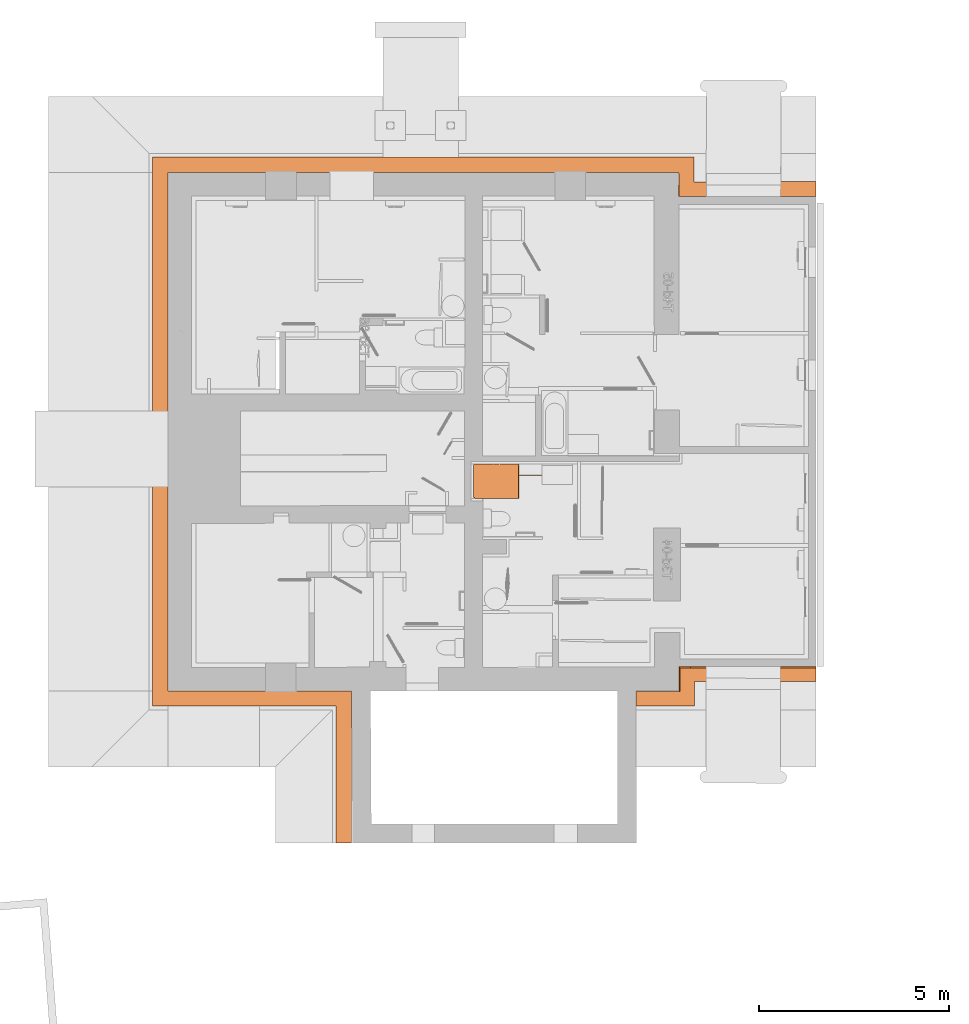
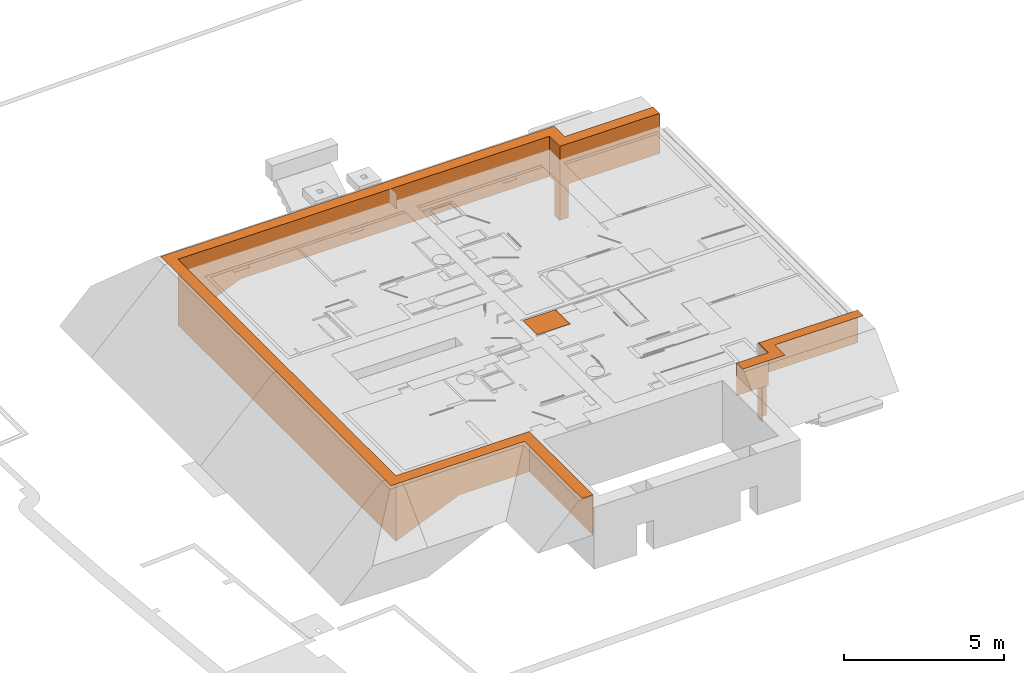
# Not in any storey, part 10 of 22: 2 proxies.
"""IFC4 model written with IfcOpenShell, lengths in metres."""

from ifc_helpers import new_model, si_unit, direction, origin_with_axes, place, context, subcontext, project, faceted_brep, element, save


model = new_model("IFC4")

# Units and contexts
model_context = context("Model", 3, precision=1e-05, world=origin_with_axes(), true_north=direction((1.0, 0.0)))
body_context = subcontext(model_context, "Body", "Model", "MODEL_VIEW")
ifc_project = project(units=[si_unit("LENGTHUNIT", "METRE"), si_unit("AREAUNIT", "SQUARE_METRE"), si_unit("VOLUMEUNIT", "CUBIC_METRE"), si_unit("MASSUNIT", "GRAM", prefix="KILO"), si_unit("TIMEUNIT", "SECOND"), si_unit("PLANEANGLEUNIT", "RADIAN"), si_unit("SOLIDANGLEUNIT", "STERADIAN")], contexts=[model_context])

# Proxies
placement = place(None, origin_with_axes())
element("IfcBuildingElementProxy", 1, at=placement, Name="Undefined", PredefinedType="NOTDEFINED", context=body_context, shape_type="Brep", body=[
    faceted_brep([(149.461937, 21.568141, 2.28), (148.564542, 21.568141, 2.28), (148.564542, 21.585072, 2.28), (149.512733, 21.585072, 2.28), (149.512785, 21.585072, 2.28), (149.529666, 21.585072, 2.28), (149.529666, 21.568141, 2.28), (149.512785, 21.568141, 2.28), (149.529685, 22.406274, 2.28), (149.529666, 22.186159, 2.28), (149.512785, 22.186159, 2.28), (149.512785, 22.450863, 2.28), (149.515596, 22.447441, 2.28), (149.518179, 22.443844, 2.28), (149.520522, 22.440087, 2.28), (149.522615, 22.436185, 2.28), (149.524451, 22.432155, 2.28), (149.52602, 22.428015, 2.28), (149.527317, 22.423781, 2.28), (149.528335, 22.419471, 2.28), (149.529071, 22.415105, 2.28), (149.529522, 22.4107, 2.28), (149.529666, 22.406792, 2.28), (149.529666, 22.169225, 2.28), (149.529666, 21.635868, 2.28), (150.127513, 22.169225, 2.28), (150.130752, 22.186159, 2.28), (150.130752, 22.169225, 2.28), (150.128131, 22.169225, 2.28), (150.128131, 22.185904, 2.28), (150.127513, 22.169225, 2.31), (149.529666, 22.169225, 2.31), (149.529666, 22.186159, 2.31), (150.130752, 22.186159, 2.31), (150.130752, 22.169225, 2.31), (150.128131, 22.169225, 2.31), (150.128131, 22.185904, 2.31)], [[[0, 1, 2, 3, 4, 5, 6, 7]], [[8, 9, 10, 11, 12, 13, 14, 15, 16, 17, 18, 19, 20, 21, 22]], [[4, 10, 9, 23, 24, 5]], [[25, 23, 9, 26, 27, 28, 29]], [[30, 31, 23, 25]], [[32, 33, 26, 9]], [[33, 34, 27, 26]], [[34, 35, 28, 27]], [[35, 36, 29, 28]], [[36, 30, 25, 29]]]),
    faceted_brep([(148.869318, 22.474002, 2.31), (148.860853, 22.474021, 2.31), (148.860853, 22.482467, 2.31), (148.869318, 22.482467, 2.31), (148.869318, 22.45707, 2.31), (148.860853, 22.45707, 2.31), (149.01324, 22.474002, 2.31), (149.004774, 22.474021, 2.31), (149.004774, 22.482467, 2.31), (149.021706, 22.482467, 2.31), (149.021706, 22.474021, 2.31), (149.021706, 22.45707, 2.31), (149.004774, 22.45707, 2.31), (149.021706, 22.45707, 2.28), (149.021706, 22.474021, 2.28), (149.461937, 22.474021, 2.28), (149.466363, 22.473858, 2.28), (149.470768, 22.473407, 2.28), (149.475134, 22.472671, 2.28), (149.479444, 22.471653, 2.28), (149.483678, 22.470356, 2.28), (149.487818, 22.468787, 2.28), (149.491848, 22.466952, 2.28), (149.49575, 22.464858, 2.28), (149.499507, 22.462515, 2.28), (149.503105, 22.459933, 2.28), (149.506526, 22.457122, 2.28), (149.509757, 22.454094, 2.28), (149.512733, 22.450918, 2.28), (149.512785, 22.450863, 2.28), (149.512785, 22.186159, 2.28), (149.461937, 22.186159, 2.28), (149.461937, 22.347013, 2.28), (149.461774, 22.351438, 2.28), (149.461324, 22.355843, 2.28), (149.460588, 22.360209, 2.28), (149.459569, 22.364519, 2.28), (149.458272, 22.368752, 2.28), (149.456703, 22.372893, 2.28), (149.454868, 22.376923, 2.28), (149.452774, 22.380825, 2.28), (149.450431, 22.384582, 2.28), (149.447849, 22.388179, 2.28), (149.445038, 22.3916, 2.28), (149.44201, 22.394832, 2.28), (149.438779, 22.397859, 2.28), (149.435357, 22.40067, 2.28), (149.43176, 22.403253, 2.28), (149.428003, 22.405596, 2.28), (149.424101, 22.407689, 2.28), (149.420071, 22.409525, 2.28), (149.415931, 22.411094, 2.28), (149.411697, 22.412391, 2.28), (149.407388, 22.413409, 2.28), (149.403021, 22.414145, 2.28), (149.398616, 22.414596, 2.28), (149.39421, 22.41474, 2.28), (148.462951, 22.414759, 2.28), (148.458526, 22.414596, 2.28), (148.454121, 22.414146, 2.28), (148.449754, 22.41341, 2.28), (148.445445, 22.412391, 2.28), (148.441211, 22.411094, 2.28), (148.43707, 22.409525, 2.28), (148.43304, 22.40769, 2.28), (148.429138, 22.405596, 2.28), (148.425381, 22.403253, 2.28), (148.421784, 22.400671, 2.28), (148.418362, 22.39786, 2.28), (148.415131, 22.394832, 2.28), (148.412104, 22.391601, 2.28), (148.409292, 22.388179, 2.28), (148.40671, 22.384582, 2.28), (148.404367, 22.380825, 2.28), (148.402273, 22.376923, 2.28), (148.400438, 22.372893, 2.28), (148.398868, 22.368753, 2.28), (148.397572, 22.364519, 2.28), (148.396553, 22.360209, 2.28), (148.395817, 22.355843, 2.28), (148.395366, 22.351438, 2.28), (148.395222, 22.347013, 2.28), (148.395203, 21.686664, 2.28), (148.395366, 21.682239, 2.28), (148.395817, 21.677834, 2.28), (148.396553, 21.673467, 2.28), (148.397572, 21.669158, 2.28), (148.398869, 21.664924, 2.28), (148.400438, 21.660784, 2.28), (148.402274, 21.656754, 2.28), (148.404367, 21.652852, 2.28), (148.40671, 21.649095, 2.28), (148.409293, 21.645498, 2.28), (148.412104, 21.642076, 2.28), (148.415131, 21.638845, 2.28), (148.418363, 21.635817, 2.28), (148.421784, 21.633006, 2.28), (148.425381, 21.630424, 2.28), (148.429139, 21.628081, 2.28), (148.433041, 21.625987, 2.28), (148.43707, 21.624152, 2.28), (148.441211, 21.622583, 2.28), (148.445445, 21.621286, 2.28), (148.449754, 21.620267, 2.28), (148.454121, 21.619531, 2.28), (148.458526, 21.619081, 2.28), (148.462951, 21.618937, 2.28), (148.564542, 21.618937, 2.28), (148.564542, 21.585072, 2.28), (148.564542, 21.568141, 2.28), (148.395222, 21.568141, 2.28), (148.390797, 21.568285, 2.28), (148.386392, 21.568735, 2.28), (148.382026, 21.569471, 2.28), (148.377716, 21.57049, 2.28), (148.373483, 21.571787, 2.28), (148.369342, 21.573356, 2.28), (148.365312, 21.575191, 2.28), (148.36141, 21.577285, 2.28), (148.357653, 21.579628, 2.28), (148.354056, 21.58221, 2.28), (148.350634, 21.585021, 2.28), (148.347403, 21.588049, 2.28), (148.344375, 21.59128, 2.28), (148.341564, 21.594702, 2.28), (148.338982, 21.598299, 2.28), (148.336639, 21.602056, 2.28), (148.334545, 21.605958, 2.28), (148.33271, 21.609988, 2.28), (148.33114, 21.614128, 2.28), (148.329843, 21.618362, 2.28), (148.328825, 21.622671, 2.28), (148.328089, 21.627038, 2.28), (148.327638, 21.631443, 2.28), (148.327475, 21.635868, 2.28), (148.327476, 21.686664, 2.28), (148.327494, 22.406274, 2.28), (148.327638, 22.4107, 2.28), (148.328088, 22.415105, 2.28), (148.328824, 22.419471, 2.28), (148.329843, 22.423781, 2.28), (148.33114, 22.428015, 2.28), (148.332709, 22.432155, 2.28), (148.334545, 22.436185, 2.28), (148.336638, 22.440087, 2.28), (148.338981, 22.443844, 2.28), (148.341564, 22.447441, 2.28), (148.344375, 22.450863, 2.28), (148.347402, 22.454094, 2.28), (148.350634, 22.457122, 2.28), (148.354055, 22.459933, 2.28), (148.357652, 22.462515, 2.28), (148.36141, 22.464858, 2.28), (148.365312, 22.466952, 2.28), (148.369342, 22.468787, 2.28), (148.373482, 22.470356, 2.28), (148.377716, 22.471653, 2.28), (148.382026, 22.472671, 2.28), (148.386392, 22.473407, 2.28), (148.390797, 22.473858, 2.28), (148.395222, 22.474021, 2.28), (148.860853, 22.474021, 2.28), (148.860853, 22.45707, 2.28), (148.869318, 22.45707, 2.28), (148.869318, 22.474002, 2.28), (149.004774, 22.474021, 2.28), (149.004774, 22.45707, 2.28), (149.461937, 22.474021, 2.31), (149.466363, 22.473858, 2.31), (149.470768, 22.473407, 2.31), (149.475134, 22.472671, 2.31), (149.479444, 22.471653, 2.31), (149.483678, 22.470356, 2.31), (149.487818, 22.468787, 2.31), (149.491848, 22.466952, 2.31), (149.49575, 22.464858, 2.31), (149.499507, 22.462515, 2.31), (149.503105, 22.459933, 2.31), (149.506526, 22.457122, 2.31), (149.509757, 22.454094, 2.31), (149.512733, 22.450918, 2.31), (149.512785, 22.450863, 2.31), (149.512785, 22.186159, 2.31), (149.461937, 22.186159, 2.29), (149.461937, 22.347013, 2.29), (149.461774, 22.351438, 2.29), (149.461324, 22.355843, 2.29), (149.460588, 22.360209, 2.29), (149.459569, 22.364519, 2.29), (149.458272, 22.368752, 2.29), (149.456703, 22.372893, 2.29), (149.454868, 22.376923, 2.29), (149.452774, 22.380825, 2.29), (149.450431, 22.384582, 2.29), (149.447849, 22.388179, 2.29), (149.445038, 22.3916, 2.29), (149.44201, 22.394832, 2.29), (149.438779, 22.397859, 2.29), (149.435357, 22.40067, 2.29), (149.43176, 22.403253, 2.29), (149.428003, 22.405596, 2.29), (149.424101, 22.407689, 2.29), (149.420071, 22.409525, 2.29), (149.415931, 22.411094, 2.29), (149.411697, 22.412391, 2.29), (149.407388, 22.413409, 2.29), (149.403021, 22.414145, 2.29), (149.398616, 22.414596, 2.29), (149.39421, 22.41474, 2.29), (148.462951, 22.414759, 2.29), (148.458526, 22.414596, 2.29), (148.454121, 22.414146, 2.29), (148.449754, 22.41341, 2.29), (148.445445, 22.412391, 2.29), (148.441211, 22.411094, 2.29), (148.43707, 22.409525, 2.29), (148.43304, 22.40769, 2.29), (148.429138, 22.405596, 2.29), (148.425381, 22.403253, 2.29), (148.421784, 22.400671, 2.29), (148.418362, 22.39786, 2.29), (148.415131, 22.394832, 2.29), (148.412104, 22.391601, 2.29), (148.409292, 22.388179, 2.29), (148.40671, 22.384582, 2.29), (148.404367, 22.380825, 2.29), (148.402273, 22.376923, 2.29), (148.400438, 22.372893, 2.29), (148.398868, 22.368753, 2.29), (148.397572, 22.364519, 2.29), (148.396553, 22.360209, 2.29), (148.395817, 22.355843, 2.29), (148.395366, 22.351438, 2.29), (148.395222, 22.347013, 2.29), (148.395203, 21.686664, 2.29), (148.395366, 21.682239, 2.29), (148.395817, 21.677834, 2.29), (148.396553, 21.673467, 2.29), (148.397572, 21.669158, 2.29), (148.398869, 21.664924, 2.29), (148.400438, 21.660784, 2.29), (148.402274, 21.656754, 2.29), (148.404367, 21.652852, 2.29), (148.40671, 21.649095, 2.29), (148.409293, 21.645498, 2.29), (148.412104, 21.642076, 2.29), (148.415131, 21.638845, 2.29), (148.418363, 21.635817, 2.29), (148.421784, 21.633006, 2.29), (148.425381, 21.630424, 2.29), (148.429139, 21.628081, 2.29), (148.433041, 21.625987, 2.29), (148.43707, 21.624152, 2.29), (148.441211, 21.622583, 2.29), (148.445445, 21.621286, 2.29), (148.449754, 21.620267, 2.29), (148.454121, 21.619531, 2.29), (148.458526, 21.619081, 2.29), (148.462951, 21.618937, 2.29), (148.564542, 21.618937, 2.29), (148.564542, 21.568141, 2.31), (148.395222, 21.568141, 2.31), (148.390797, 21.568285, 2.31), (148.386392, 21.568735, 2.31), (148.382026, 21.569471, 2.31), (148.377716, 21.57049, 2.31), (148.373483, 21.571787, 2.31), (148.369342, 21.573356, 2.31), (148.365312, 21.575191, 2.31), (148.36141, 21.577285, 2.31), (148.357653, 21.579628, 2.31), (148.354056, 21.58221, 2.31), (148.350634, 21.585021, 2.31), (148.347403, 21.588049, 2.31), (148.344375, 21.59128, 2.31), (148.341564, 21.594702, 2.31), (148.338982, 21.598299, 2.31), (148.336639, 21.602056, 2.31), (148.334545, 21.605958, 2.31), (148.33271, 21.609988, 2.31), (148.33114, 21.614128, 2.31), (148.329843, 21.618362, 2.31), (148.328825, 21.622671, 2.31), (148.328089, 21.627038, 2.31), (148.327638, 21.631443, 2.31), (148.327475, 21.635868, 2.31), (148.327476, 21.686664, 2.31), (148.327494, 22.406274, 2.31), (148.327638, 22.4107, 2.31), (148.328088, 22.415105, 2.31), (148.328824, 22.419471, 2.31), (148.329843, 22.423781, 2.31), (148.33114, 22.428015, 2.31), (148.332709, 22.432155, 2.31), (148.334545, 22.436185, 2.31), (148.336638, 22.440087, 2.31), (148.338981, 22.443844, 2.31), (148.341564, 22.447441, 2.31), (148.344375, 22.450863, 2.31), (148.347402, 22.454094, 2.31), (148.350634, 22.457122, 2.31), (148.354055, 22.459933, 2.31), (148.357652, 22.462515, 2.31), (148.36141, 22.464858, 2.31), (148.365312, 22.466952, 2.31), (148.369342, 22.468787, 2.31), (148.373482, 22.470356, 2.31), (148.377716, 22.471653, 2.31), (148.382026, 22.472671, 2.31), (148.386392, 22.473407, 2.31), (148.390797, 22.473858, 2.31), (148.395222, 22.474021, 2.31), (149.461937, 21.686664, 2.29), (149.461793, 21.682239, 2.29), (149.461343, 21.677834, 2.29), (149.460607, 21.673468, 2.29), (149.459588, 21.669158, 2.29), (149.458291, 21.664924, 2.29), (149.456722, 21.660784, 2.29), (149.454886, 21.656754, 2.29), (149.452793, 21.652852, 2.29), (149.45045, 21.649095, 2.29), (149.447867, 21.645498, 2.29), (149.445056, 21.642077, 2.29), (149.442029, 21.638845, 2.29), (149.438797, 21.635818, 2.29), (149.435376, 21.633007, 2.29), (149.431779, 21.630424, 2.29), (149.428022, 21.628081, 2.29), (149.42412, 21.625988, 2.29), (149.42009, 21.624152, 2.29), (149.41595, 21.622583, 2.29), (149.411716, 21.621286, 2.29), (149.407407, 21.620267, 2.29), (149.40304, 21.619531, 2.29), (149.398635, 21.619081, 2.29), (149.39421, 21.618937, 2.29), (149.461937, 21.686664, 2.28), (149.461793, 21.682239, 2.28), (149.461343, 21.677834, 2.28), (149.460607, 21.673468, 2.28), (149.459588, 21.669158, 2.28), (149.458291, 21.664924, 2.28), (149.456722, 21.660784, 2.28), (149.454886, 21.656754, 2.28), (149.452793, 21.652852, 2.28), (149.45045, 21.649095, 2.28), (149.447867, 21.645498, 2.28), (149.445056, 21.642077, 2.28), (149.442029, 21.638845, 2.28), (149.438797, 21.635818, 2.28), (149.435376, 21.633007, 2.28), (149.431779, 21.630424, 2.28), (149.428022, 21.628081, 2.28), (149.42412, 21.625988, 2.28), (149.42009, 21.624152, 2.28), (149.41595, 21.622583, 2.28), (149.411716, 21.621286, 2.28), (149.407407, 21.620267, 2.28), (149.40304, 21.619531, 2.28), (149.398635, 21.619081, 2.28), (149.39421, 21.618937, 2.28), (149.512733, 21.58512, 2.28), (149.512733, 21.585072, 2.31), (149.461937, 21.568141, 2.31), (149.461937, 21.568141, 2.28), (149.529666, 21.585072, 2.31), (149.529666, 21.585072, 2.28), (149.529666, 21.568141, 2.31), (149.529666, 21.568141, 2.28), (149.512785, 21.568141, 2.31), (149.512785, 21.568141, 2.28), (149.512733, 22.474002, 2.31), (149.515596, 22.447441, 2.31), (149.518179, 22.443844, 2.31), (149.520522, 22.440087, 2.31), (149.522615, 22.436185, 2.31), (149.524451, 22.432155, 2.31), (149.52602, 22.428015, 2.31), (149.527317, 22.423781, 2.31), (149.528335, 22.419471, 2.31), (149.529071, 22.415105, 2.31), (149.529522, 22.4107, 2.31), (149.529666, 22.406792, 2.31), (149.529666, 22.474002, 2.31), (149.512733, 22.474002, 2.28), (149.529666, 22.474002, 2.28), (149.529666, 22.406792, 2.28), (149.529522, 22.4107, 2.28), (149.529071, 22.415105, 2.28), (149.528335, 22.419471, 2.28), (149.527317, 22.423781, 2.28), (149.52602, 22.428015, 2.28), (149.524451, 22.432155, 2.28), (149.522615, 22.436185, 2.28), (149.520522, 22.440087, 2.28), (149.518179, 22.443844, 2.28), (149.515596, 22.447441, 2.28), (149.529685, 22.406274, 2.31), (149.529666, 22.186159, 2.31), (149.529666, 22.186159, 2.28), (149.529685, 22.406274, 2.28), (149.529666, 22.169225, 2.31), (149.529666, 21.635868, 2.31), (149.529666, 21.635868, 2.28), (149.529666, 22.169225, 2.28), (150.128131, 22.169225, 2.31), (150.127513, 22.169225, 2.31), (150.128131, 22.185904, 2.31)], [[[0, 1, 2, 3]], [[1, 0, 4, 5]], [[6, 7, 8, 9, 10]], [[7, 6, 10, 11, 12]], [[13, 14, 15, 16, 17, 18, 19, 20, 21, 22, 23, 24, 25, 26, 27, 28, 29, 30, 31, 32, 33, 34, 35, 36, 37, 38, 39, 40, 41, 42, 43, 44, 45, 46, 47, 48, 49, 50, 51, 52, 53, 54, 55, 56, 57, 58, 59, 60, 61, 62, 63, 64, 65, 66, 67, 68, 69, 70, 71, 72, 73, 74, 75, 76, 77, 78, 79, 80, 81, 82, 83, 84, 85, 86, 87, 88, 89, 90, 91, 92, 93, 94, 95, 96, 97, 98, 99, 100, 101, 102, 103, 104, 105, 106, 107, 108, 109, 110, 111, 112, 113, 114, 115, 116, 117, 118, 119, 120, 121, 122, 123, 124, 125, 126, 127, 128, 129, 130, 131, 132, 133, 134, 135, 136, 137, 138, 139, 140, 141, 142, 143, 144, 145, 146, 147, 148, 149, 150, 151, 152, 153, 154, 155, 156, 157, 158, 159, 160, 161, 162, 163, 164, 165, 166]], [[11, 10, 14, 13]], [[10, 167, 15, 14]], [[167, 168, 16, 15]], [[168, 169, 17, 16]], [[169, 170, 18, 17]], [[170, 171, 19, 18]], [[171, 172, 20, 19]], [[172, 173, 21, 20]], [[173, 174, 22, 21]], [[174, 175, 23, 22]], [[175, 176, 24, 23]], [[176, 177, 25, 24]], [[177, 178, 26, 25]], [[178, 179, 27, 26]], [[179, 180, 28, 27]], [[181, 182, 30, 29]], [[31, 183, 184, 32]], [[32, 184, 185, 33]], [[33, 185, 186, 34]], [[34, 186, 187, 35]], [[35, 187, 188, 36]], [[36, 188, 189, 37]], [[37, 189, 190, 38]], [[38, 190, 191, 39]], [[39, 191, 192, 40]], [[40, 192, 193, 41]], [[41, 193, 194, 42]], [[42, 194, 195, 43]], [[43, 195, 196, 44]], [[44, 196, 197, 45]], [[45, 197, 198, 46]], [[46, 198, 199, 47]], [[47, 199, 200, 48]], [[48, 200, 201, 49]], [[49, 201, 202, 50]], [[50, 202, 203, 51]], [[51, 203, 204, 52]], [[52, 204, 205, 53]], [[53, 205, 206, 54]], [[54, 206, 207, 55]], [[55, 207, 208, 56]], [[56, 208, 209, 57]], [[57, 209, 210, 58]], [[58, 210, 211, 59]], [[59, 211, 212, 60]], [[60, 212, 213, 61]], [[61, 213, 214, 62]], [[62, 214, 215, 63]], [[63, 215, 216, 64]], [[64, 216, 217, 65]], [[65, 217, 218, 66]], [[66, 218, 219, 67]], [[67, 219, 220, 68]], [[68, 220, 221, 69]], [[69, 221, 222, 70]], [[70, 222, 223, 71]], [[71, 223, 224, 72]], [[72, 224, 225, 73]], [[73, 225, 226, 74]], [[74, 226, 227, 75]], [[75, 227, 228, 76]], [[76, 228, 229, 77]], [[77, 229, 230, 78]], [[78, 230, 231, 79]], [[79, 231, 232, 80]], [[80, 232, 233, 81]], [[81, 233, 234, 82]], [[82, 234, 235, 83]], [[83, 235, 236, 84]], [[84, 236, 237, 85]], [[85, 237, 238, 86]], [[86, 238, 239, 87]], [[87, 239, 240, 88]], [[88, 240, 241, 89]], [[89, 241, 242, 90]], [[90, 242, 243, 91]], [[91, 243, 244, 92]], [[92, 244, 245, 93]], [[93, 245, 246, 94]], [[94, 246, 247, 95]], [[95, 247, 248, 96]], [[96, 248, 249, 97]], [[97, 249, 250, 98]], [[98, 250, 251, 99]], [[99, 251, 252, 100]], [[100, 252, 253, 101]], [[101, 253, 254, 102]], [[102, 254, 255, 103]], [[103, 255, 256, 104]], [[104, 256, 257, 105]], [[105, 257, 258, 106]], [[106, 258, 259, 107]], [[260, 261, 110, 109]], [[261, 262, 111, 110]], [[262, 263, 112, 111]], [[263, 264, 113, 112]], [[264, 265, 114, 113]], [[265, 266, 115, 114]], [[266, 267, 116, 115]], [[267, 268, 117, 116]], [[268, 269, 118, 117]], [[269, 270, 119, 118]], [[270, 271, 120, 119]], [[271, 272, 121, 120]], [[272, 273, 122, 121]], [[273, 274, 123, 122]], [[274, 275, 124, 123]], [[275, 276, 125, 124]], [[276, 277, 126, 125]], [[277, 278, 127, 126]], [[278, 279, 128, 127]], [[279, 280, 129, 128]], [[280, 281, 130, 129]], [[281, 282, 131, 130]], [[282, 283, 132, 131]], [[283, 284, 133, 132]], [[284, 285, 134, 133]], [[285, 286, 135, 134]], [[286, 287, 136, 135]], [[287, 288, 137, 136]], [[288, 289, 138, 137]], [[289, 290, 139, 138]], [[290, 291, 140, 139]], [[291, 292, 141, 140]], [[292, 293, 142, 141]], [[293, 294, 143, 142]], [[294, 295, 144, 143]], [[295, 296, 145, 144]], [[296, 297, 146, 145]], [[297, 298, 147, 146]], [[298, 299, 148, 147]], [[299, 300, 149, 148]], [[300, 301, 150, 149]], [[301, 302, 151, 150]], [[302, 303, 152, 151]], [[303, 304, 153, 152]], [[304, 305, 154, 153]], [[305, 306, 155, 154]], [[306, 307, 156, 155]], [[307, 308, 157, 156]], [[308, 309, 158, 157]], [[309, 310, 159, 158]], [[310, 311, 160, 159]], [[311, 1, 161, 160]], [[1, 5, 162, 161]], [[5, 4, 163, 162]], [[4, 0, 164, 163]], [[0, 7, 165, 164]], [[7, 12, 166, 165]], [[12, 11, 13, 166]], [[184, 183, 312, 313, 314, 315, 316, 317, 318, 319, 320, 321, 322, 323, 324, 325, 326, 327, 328, 329, 330, 331, 332, 333, 334, 335, 336, 259, 258, 257, 256, 255, 254, 253, 252, 251, 250, 249, 248, 247, 246, 245, 244, 243, 242, 241, 240, 239, 238, 237, 236, 235, 234, 233, 232, 231, 230, 229, 228, 227, 226, 225, 224, 223, 222, 221, 220, 219, 218, 217, 216, 215, 214, 213, 212, 211, 210, 209, 208, 207, 206, 205, 204, 203, 202, 201, 200, 199, 198, 197, 196, 195, 194, 193, 192, 191, 190, 189, 188, 187, 186, 185]], [[183, 31, 337, 312]], [[312, 337, 338, 313]], [[313, 338, 339, 314]], [[314, 339, 340, 315]], [[315, 340, 341, 316]], [[316, 341, 342, 317]], [[317, 342, 343, 318]], [[318, 343, 344, 319]], [[319, 344, 345, 320]], [[320, 345, 346, 321]], [[321, 346, 347, 322]], [[322, 347, 348, 323]], [[323, 348, 349, 324]], [[324, 349, 350, 325]], [[325, 350, 351, 326]], [[326, 351, 352, 327]], [[327, 352, 353, 328]], [[328, 353, 354, 329]], [[329, 354, 355, 330]], [[330, 355, 356, 331]], [[331, 356, 357, 332]], [[332, 357, 358, 333]], [[333, 358, 359, 334]], [[334, 359, 360, 335]], [[335, 360, 361, 336]], [[336, 361, 107, 259]], [[348, 347, 346, 345, 344, 343, 342, 341, 340, 339, 338, 337, 31, 30, 362, 108, 107, 361, 360, 359, 358, 357, 356, 355, 354, 353, 352, 351, 350, 349]], [[182, 363, 362, 30]], [[364, 260, 109, 365]], [[363, 366, 367, 362]], [[366, 368, 369, 367]], [[368, 370, 371, 369]], [[370, 364, 365, 371]], [[372, 180, 181, 373, 374, 375, 376, 377, 378, 379, 380, 381, 382, 383, 384]], [[180, 181, 182]], [[180, 182, 363, 366, 368, 370, 364, 260, 261, 262, 263, 264, 265, 266, 267, 268, 269, 270, 271, 272, 273, 274, 275, 276, 277, 278, 279, 280, 281, 282, 283, 284, 285, 286, 287, 288, 289, 290, 291, 292, 293, 294, 295, 296, 297, 298, 299, 300, 301, 302, 303, 304, 305, 306, 307, 308, 309, 310, 311, 1, 5, 4, 0, 7, 12, 11, 10, 167, 168, 169, 170, 171, 172, 173, 174, 175, 176, 177, 178, 179]], [[28, 385, 386, 387, 388, 389, 390, 391, 392, 393, 394, 395, 396, 397, 29]], [[180, 372, 385, 28]], [[372, 384, 386, 385]], [[384, 383, 387, 386]], [[383, 382, 388, 387]], [[382, 381, 389, 388]], [[381, 380, 390, 389]], [[380, 379, 391, 390]], [[379, 378, 392, 391]], [[378, 377, 393, 392]], [[377, 376, 394, 393]], [[376, 375, 395, 394]], [[375, 374, 396, 395]], [[374, 373, 397, 396]], [[373, 181, 29, 397]], [[180, 181, 29, 28]], [[398, 399, 400, 401]], [[383, 398, 401, 387]], [[363, 182, 30, 362]], [[402, 403, 404, 405]], [[403, 366, 367, 404]], [[406, 407, 408]]]),
])
element("IfcBuildingElementProxy", 2, at=placement, Name="Undefined", PredefinedType="NOTDEFINED", context=body_context, shape_type="Brep", body=[
    faceted_brep([(153.737265, 29.504064, 1.27), (153.728799, 29.824128, 1.27), (153.728799, 29.504064, 1.27), (153.728799, 29.504064, -0.025), (153.737265, 29.504063, -0.025), (154.036558, 29.504024, -0.025), (154.036558, 29.504025, 1.27), (153.737265, 17.103048, 2.81), (153.737265, 17.115028, 2.81), (153.762664, 17.115028, 2.81), (153.762664, 17.103048, 2.81), (153.758265, 17.103048, 2.81)], [[[0, 1, 2]], [[3, 4, 0, 2]], [[4, 5, 6, 0]], [[7, 8, 9, 10, 11]]]),
    faceted_brep([(142.600566, 16.505476, 1.27), (145.118883, 16.505477, 1.27), (145.118883, 16.505477, 2.31), (145.118883, 16.505476, 2.81), (140.293266, 16.505476, 2.81), (140.293266, 16.505477, 2.31), (140.293266, 16.505476, 0.288867), (145.118883, 12.509526, 1.27), (145.118883, 12.509526, 2.31), (145.118883, 12.509526, 2.81), (144.718883, 12.509526, 2.81), (144.718883, 16.105477, 2.81), (140.293266, 23.324835, 2.81), (140.293266, 23.324835, 0.288867), (139.893266, 16.105477, 2.81), (139.893266, 23.324835, 2.81)], [[[0, 1, 2, 3, 4, 5, 6]], [[3, 2, 1, 7, 8, 9]], [[10, 11, 3, 9]], [[4, 12, 13, 6, 5]], [[14, 15, 12, 4, 3, 11]]]),
    faceted_brep([(153.728799, 29.504064, 1.27), (153.728799, 29.824128, 1.27), (153.728799, 30.144193, 1.27), (153.728799, 30.144193, 2.81), (153.728799, 29.504064, 2.81), (142.866927, 30.144192, 1.27), (142.572927, 30.144193, 1.27), (140.293266, 30.144193, 0.288867), (140.293266, 30.144193, 2.81), (140.293266, 23.324835, 2.81), (139.893266, 23.324835, 2.81), (139.893266, 30.544193, 2.81), (154.128799, 30.544193, 2.81), (154.128799, 29.904063, 2.81), (154.128799, 29.889763, 2.81), (157.340961, 29.904064, 2.81), (157.340961, 29.504064, 2.81), (153.737265, 29.504063, 2.81), (140.293266, 23.324835, 0.288867), (152.611245, 16.490942, 1.561724), (153.737265, 16.490942, 1.561724), (153.758265, 16.490942, 1.561724), (153.758265, 16.490942, 2.81), (152.611245, 16.490942, 2.81), (157.340961, 16.749048, 2.81), (154.137265, 16.749048, 2.81), (154.137265, 16.105477, 2.81), (152.611245, 16.105477, 2.81), (153.758265, 17.103048, 2.81), (153.762664, 17.103048, 2.81), (157.340961, 17.103048, 2.81), (153.737265, 29.504064, 1.27), (153.737265, 29.504063, 2.31), (157.340961, 29.504064, 1.27), (153.737265, 29.504063, -0.025), (153.737265, 29.504063, -0.05), (153.728799, 29.824128, -0.05), (153.758265, 17.103048, -0.05), (154.037264, 17.103048, -0.05), (154.037264, 17.103048, 1.561724), (157.340961, 17.103048, 1.561724), (157.340961, 17.103048, 2.31), (157.340961, 17.149048, 1.561724), (157.340961, 17.149048, 2.31), (157.340961, 17.149048, 2.81), (153.758265, 16.849048, 1.561724), (153.758265, 16.849048, -0.05), (153.737265, 16.849048, 1.561724), (154.037264, 17.149048, 1.561724), (153.737265, 17.149048, -0.05), (154.037264, 17.149048, -0.05), (153.737265, 17.103048, -0.05), (153.737265, 17.149048, 1.561724), (153.737265, 17.103048, 1.561724), (153.737265, 16.849048, -0.05)], [[[0, 1, 2, 3, 4]], [[5, 6, 7, 8, 3, 2]], [[8, 9, 10, 11, 12, 13, 14, 15, 16, 17, 3]], [[7, 18, 9, 8]], [[19, 20, 21, 22, 23]], [[24, 25, 26, 27, 23, 22, 28, 29, 30]], [[31, 32, 17, 16, 33]], [[1, 31, 34, 35, 36]], [[29, 28, 37, 38, 39, 40, 41, 30]], [[42, 43, 41, 40]], [[43, 44, 30, 41]], [[37, 28, 22, 21, 45, 46]], [[20, 47, 45, 21]], [[40, 39, 48, 42]], [[49, 50, 38, 37, 51]], [[52, 48, 50, 49]], [[48, 39, 38, 50]], [[53, 52, 49, 51]], [[37, 46, 54, 51]], [[45, 47, 54, 46]], [[47, 53, 51, 54]]]),
])

save(model, "model.ifc")
